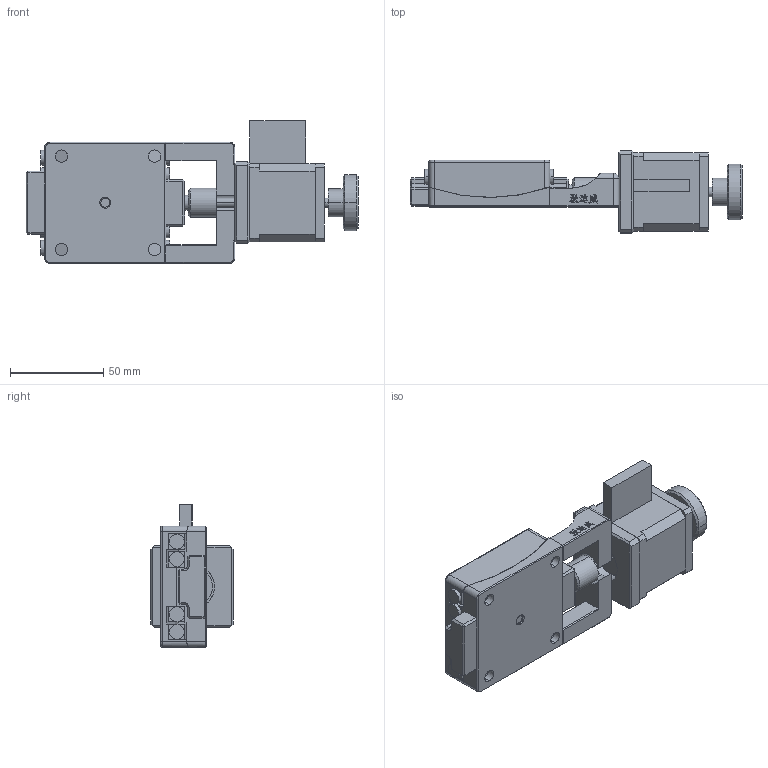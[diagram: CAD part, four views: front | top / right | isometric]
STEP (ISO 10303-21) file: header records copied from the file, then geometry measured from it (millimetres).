
FILE_DESCRIPTION (( 'STEP AP203' ), '1' );
FILE_NAME ('PJ110-10.STEP', '2022-08-21T05:43:49', ( '' ), ( '' ), 'SwSTEP 2.0', 'SolidWorks 2020', '' );
FILE_SCHEMA (( 'CONFIG_CONTROL_DESIGN' ));
Length unit declared in the file: millimetre
Products named in the file (6): ZJ110-10 __________________.STEP; SJ110-10 ______________.STEP; ZJ110-10 __________________ .STEP; ZJ110-10____.STEP; YK42____.STEP; PJ110-10
Assembly tree (8 placements, depth 2):
  PJ110-10
    ZJ110-10 __________________ .STEP
    ZJ110-10 __________________.STEP
    SJ110-10 ______________.STEP
    YK42____.STEP
    ZJ110-10____.STEP  x4
Bounding box: 178 x 44 x 76.5 mm (x, y, z)
Volume: 218606.7 mm3; surface area: 69611.3 mm2
Topology: 12 solids, 12 shells, 534 faces, 1331 edges, 847 vertices
Faces by surface type: plane 304, cylinder 125, bspline 81, cone 18, torus 4, sphere 2
Entity records: 19831 total; most frequent: CARTESIAN_POINT 7608, ORIENTED_EDGE 2502, DIRECTION 2115, EDGE_CURVE 1251, VECTOR 847, LINE 847, VERTEX_POINT 799, AXIS2_PLACEMENT_3D 634
